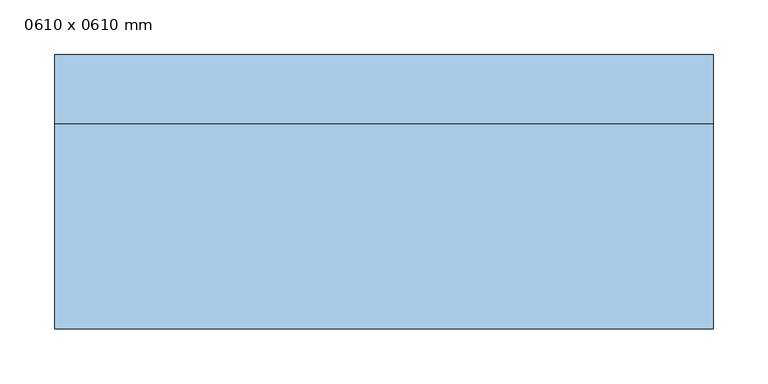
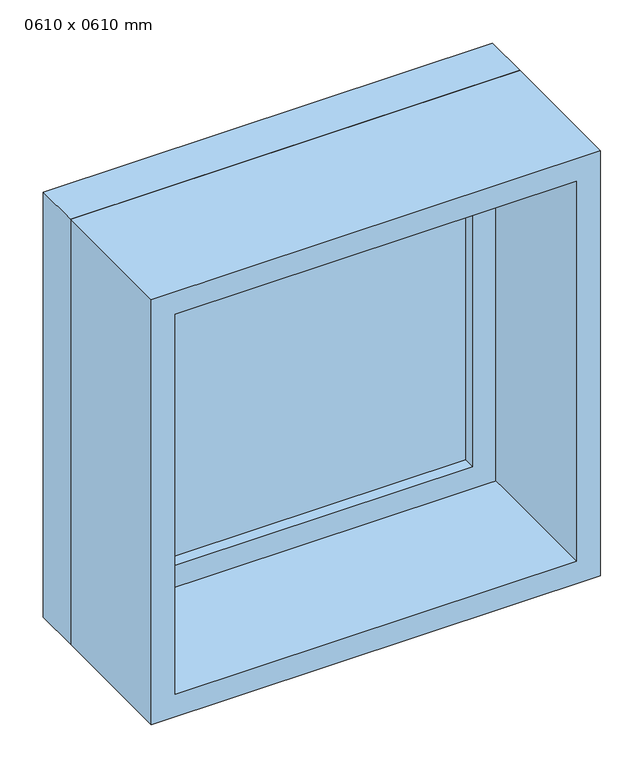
"""IFC4 building model written with IfcOpenShell, lengths in millimetres: window geometry, M_Fixado : 0610 x 0610 mm."""

import ifcopenshell
import ifcopenshell.guid

model = None  # the IFC model being written
_history = None  # IfcOwnerHistory: only IFC2X3 demands one
_inside = {}  # id of a spatial element -> (the spatial element, [elements in it])
_under = {}  # id of a project, library or spatial element -> (it, [spatial elements below it])
_declared = {}  # id of a project -> (the project, [libraries it declares])
_typed = {}  # id of a type object -> (the type object, [elements of that type])
_made_of = {}  # id of a material, layer set ... -> (it, [elements and type objects made of it])


def new_model(schema):
    """Start an empty IFC model of exactly this schema.

    Asked for "IFC4X3", IfcOpenShell would pick the latest addendum, in which some entities
    have other attributes; the version numbers below select the first issue.
    IFC2X3 requires an IfcOwnerHistory on every rooted entity: one is made here for all.
    """
    global model, _history
    if schema == "IFC4X3":
        model = ifcopenshell.file(schema_version=(4, 3, 0, 0))
    else:
        model = ifcopenshell.file(schema=schema)
    _inside.clear()
    _under.clear()
    _declared.clear()
    _typed.clear()
    _made_of.clear()
    _history = None
    if model.schema == "IFC2X3":
        org = make("IfcOrganization", Name="unknown")
        user = make(
            "IfcPersonAndOrganization",
            ThePerson=make("IfcPerson", FamilyName="unknown"),
            TheOrganization=org,
        )
        app = make(
            "IfcApplication",
            ApplicationDeveloper=org,
            Version="unknown",
            ApplicationFullName="unknown",
            ApplicationIdentifier="unknown",
        )
        _history = make(
            "IfcOwnerHistory",
            OwningUser=user,
            OwningApplication=app,
            ChangeAction="ADDED",
            CreationDate=0,
        )
    return model


def make(cls, **values):
    """One entity of the class cls with the attributes given. An attribute that is None is left unset."""
    return model.create_entity(
        cls, **{name: value for name, value in values.items() if value is not None}
    )


def rooted(cls, **values):
    """An entity with a GlobalId (a new one), such as an element, a storey or a relation."""
    return make(cls, GlobalId=ifcopenshell.guid.new(), OwnerHistory=_history, **values)


def si_unit(unit_type, name, prefix=None):
    """IfcSIUnit, for example si_unit("LENGTHUNIT", "METRE", prefix="MILLI")."""
    return make("IfcSIUnit", UnitType=unit_type, Prefix=prefix, Name=name)


def assignment(units):
    """IfcUnitAssignment: the units of a project."""
    return None if units is None else make("IfcUnitAssignment", Units=units)


def point(xyz):
    """IfcCartesianPoint."""
    return None if xyz is None else make("IfcCartesianPoint", Coordinates=xyz)


def direction(xyz):
    """IfcDirection."""
    return None if xyz is None else make("IfcDirection", DirectionRatios=xyz)


def frame(location, z_axis=None, x_axis=None):
    """IfcAxis2Placement3D, a coordinate frame: its origin and axes. An axis left out is left unset."""
    return make(
        "IfcAxis2Placement3D",
        Location=point(location),
        Axis=direction(z_axis),
        RefDirection=direction(x_axis),
    )


def origin():
    """The frame at (0, 0, 0) with its axes left unset."""
    return frame((0.0, 0.0, 0.0))


def place(relative_to, where):
    """IfcLocalPlacement: puts the frame where relative to a parent placement (None: the world)."""
    return make(
        "IfcLocalPlacement", PlacementRelTo=relative_to, RelativePlacement=where
    )


def context(
    kind, dimensions, precision=None, world=None, true_north=None, identifier=None
):
    """IfcGeometricRepresentationContext, for example the 3D "Model" context."""
    return make(
        "IfcGeometricRepresentationContext",
        ContextIdentifier=identifier,
        ContextType=kind,
        CoordinateSpaceDimension=dimensions,
        Precision=precision,
        WorldCoordinateSystem=world,
        TrueNorth=true_north,
    )


def project(units=None, contexts=None):
    """IfcProject with its units and contexts."""
    return rooted(
        "IfcProject",
        Name="project",
        RepresentationContexts=contexts,
        UnitsInContext=assignment(units),
    )


def spatial(cls, under=None, at=None, **own):
    """A site, building, storey or space (cls), placed at a placement, below another one or the project."""
    s = rooted(cls, ObjectPlacement=at, **own)
    if under is not None:
        _under.setdefault(under.id(), (under, []))[1].append(s)
    return s


def polyline(points):
    """IfcPolyline through the points."""
    return make("IfcPolyline", Points=[point(p) for p in points])


def outline(outer, holes=None, kind="AREA"):
    """IfcArbitraryClosedProfileDef: a profile drawn as a closed curve; with holes, ...WithVoids."""
    if holes is None:
        return make("IfcArbitraryClosedProfileDef", ProfileType=kind, OuterCurve=outer)
    return make(
        "IfcArbitraryProfileDefWithVoids",
        ProfileType=kind,
        OuterCurve=outer,
        InnerCurves=holes,
    )


def extrude(swept, where, along, depth):
    """IfcExtrudedAreaSolid: the profile swept, set in the frame where, extruded along a direction by depth."""
    return make(
        "IfcExtrudedAreaSolid",
        SweptArea=swept,
        Position=where,
        ExtrudedDirection=direction(along),
        Depth=depth,
    )


def shape(context_of_items, identifier, shape_type, items):
    """IfcShapeRepresentation: the items that make up one representation, for example the "Body"."""
    return make(
        "IfcShapeRepresentation",
        ContextOfItems=context_of_items,
        RepresentationIdentifier=identifier,
        RepresentationType=shape_type,
        Items=items,
    )


def source(mapping_origin, context_of_items, identifier, shape_type, items):
    """IfcRepresentationMap: a shape defined once, which mapped items show again and again."""
    return make(
        "IfcRepresentationMap",
        MappingOrigin=mapping_origin,
        MappedRepresentation=shape(context_of_items, identifier, shape_type, items),
    )


def transform(
    local_origin,
    x_axis=None,
    y_axis=None,
    z_axis=None,
    scale=None,
    scale2=None,
    scale3=None,
    uniform=True,
):
    """IfcCartesianTransformationOperator3D, or its non-uniform kind. x_axis, y_axis, z_axis: its Axis1, 2, 3."""
    if uniform:
        return make(
            "IfcCartesianTransformationOperator3D",
            Axis1=direction(x_axis),
            Axis2=direction(y_axis),
            LocalOrigin=point(local_origin),
            Scale=scale,
            Axis3=direction(z_axis),
        )
    return make(
        "IfcCartesianTransformationOperator3DnonUniform",
        Axis1=direction(x_axis),
        Axis2=direction(y_axis),
        LocalOrigin=point(local_origin),
        Scale=scale,
        Axis3=direction(z_axis),
        Scale2=scale2,
        Scale3=scale3,
    )


def mapped(mapping_source, mapping_target):
    """IfcMappedItem: shows the shape of a source again, moved by a transform."""
    return make(
        "IfcMappedItem", MappingSource=mapping_source, MappingTarget=mapping_target
    )


def made_of(thing, what):
    """Note that an element or type object is made of a material, layer set ...; save() writes the relation."""
    if what is not None:
        _made_of.setdefault(what.id(), (what, []))[1].append(thing)
    return thing


def element(
    cls,
    number,
    at=None,
    inside=None,
    cuts=None,
    type_object=None,
    material=None,
    context=None,
    identifier="Body",
    shape_type=None,
    held_by="IfcProductDefinitionShape",
    body=None,
    shapes=None,
    **own,
):
    """One element of the class cls, such as IfcWall. Its Tag is "e" and its number.

    at: its placement. inside: the storey or other place that contains it. cuts: it is an
    opening in that element (IfcRelVoidsElement). A single representation is given by context,
    identifier, shape_type and body (its items); several are given by shapes. held_by: the class
    of the entity that holds the representations. save() writes the other relations.
    """
    e = rooted(cls, Tag="e%d" % number, ObjectPlacement=at, **own)
    if body is not None:
        shapes = [shape(context, identifier, shape_type, body)]
    if shapes is not None:
        e.Representation = make(held_by, Representations=shapes)
    if inside is not None:
        _inside.setdefault(inside.id(), (inside, []))[1].append(e)
    if cuts is not None:
        rooted(
            "IfcRelVoidsElement", RelatingBuildingElement=cuts, RelatedOpeningElement=e
        )
    if type_object is not None:
        _typed.setdefault(type_object.id(), (type_object, []))[1].append(e)
    return made_of(e, material)


def aggregate(whole, parts):
    """IfcRelAggregates: a whole, such as a stair, and the parts it consists of."""
    return rooted("IfcRelAggregates", RelatingObject=whole, RelatedObjects=parts)


def save(model, path):
    """Write the relations noted so far, then the file.

    IfcRelAggregates (storeys below a building ...), IfcRelContainedInSpatialStructure (elements
    in a storey), IfcRelDefinesByType, IfcRelAssociatesMaterial and IfcRelDeclares: one each for
    every whole, place, type object, material and project.
    """
    for whole, parts in _under.values():
        aggregate(whole, parts)
    for where, things in _inside.values():
        rooted(
            "IfcRelContainedInSpatialStructure",
            RelatedElements=things,
            RelatingStructure=where,
        )
    for kind, things in _typed.values():
        rooted("IfcRelDefinesByType", RelatedObjects=things, RelatingType=kind)
    for what, things in _made_of.values():
        rooted("IfcRelAssociatesMaterial", RelatedObjects=things, RelatingMaterial=what)
    for by, libraries in _declared.values():
        rooted("IfcRelDeclares", RelatingContext=by, RelatedDefinitions=libraries)
    model.write(path)


def window_0610_x_0610_mm_da1d4716(model_context):
    return source(origin(), model_context, "Body", "SweptSolid", [
        extrude(outline(polyline([(-237.0, 103.0), (237.0, 103.0), (237.0, 91.0), (-237.0, 91.0), (-237.0, 103.0)])), frame((0.0, 0.0, 978.0), z_axis=(0.0, 0.0, 1.0), x_axis=(1.0, 0.0, 0.0)), (0.0, 0.0, 1.0), 474.0),
        extrude(outline(polyline([(1496.0, -281.0), (934.0, -281.0), (934.0, 281.0), (1496.0, 281.0), (1496.0, -281.0)]), holes=[polyline([(1452.0, -237.0), (1452.0, 237.0), (978.0, 237.0), (978.0, -237.0), (1452.0, -237.0)])]), frame((0.0, 75.0, 0.0), z_axis=(0.0, 1.0, 0.0), x_axis=(0.0, 0.0, 1.0)), (0.0, 0.0, 1.0), 44.0),
        extrude(outline(polyline([(1515.0, -300.0), (915.0, -300.0), (915.0, 300.0), (1515.0, 300.0), (1515.0, -300.0)]), holes=[polyline([(1496.0, -281.0), (1496.0, 281.0), (934.0, 281.0), (934.0, -281.0), (1496.0, -281.0)])]), frame((0.0, 75.0, 0.0), z_axis=(0.0, 1.0, 0.0), x_axis=(0.0, 0.0, 1.0)), (0.0, 0.0, 1.0), 63.0),
        extrude(outline(polyline([(1515.0, -300.0), (915.0, -300.0), (915.0, 300.0), (1515.0, 300.0), (1515.0, -300.0)]), holes=[polyline([(1483.0, -268.0), (1483.0, 268.0), (947.0, 268.0), (947.0, -268.0), (1483.0, -268.0)])]), frame((0.0, -112.0, 0.0), z_axis=(0.0, 1.0, 0.0), x_axis=(0.0, 0.0, 1.0)), (0.0, 0.0, 1.0), 187.0),
    ])


if __name__ == "__main__":
    model = new_model("IFC4")
    model_context = context("Model", 3, world=origin())
    ifc_project = project(units=[si_unit("LENGTHUNIT", "METRE", prefix="MILLI")], contexts=[model_context])
    site = spatial("IfcSite", under=ifc_project)
    building = spatial("IfcBuilding", under=site)
    placement = place(None, origin())
    window_0610_x_0610_mm_shape = window_0610_x_0610_mm_da1d4716(model_context)
    element("IfcWindow", 1, ObjectType="M_Fixado : 0610 x 0610 mm", at=placement, inside=building, context=model_context, shape_type="MappedRepresentation", body=[
        mapped(window_0610_x_0610_mm_shape, transform((0.0, 0.0, 0.0), x_axis=(1.0, 0.0, 0.0), y_axis=(0.0, 1.0, 0.0), z_axis=(0.0, 0.0, 1.0))),
    ])
    save(model, "model.ifc")
